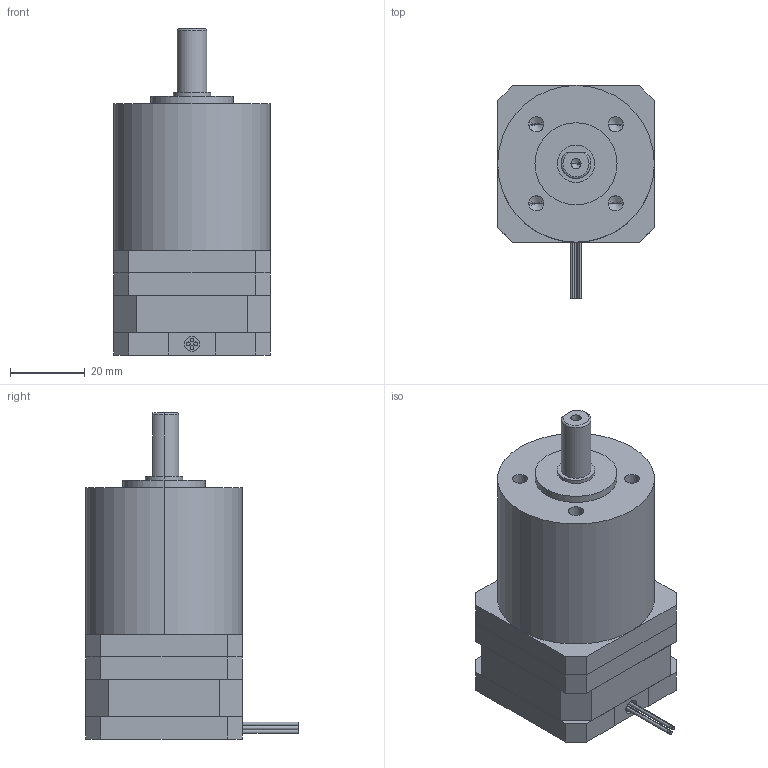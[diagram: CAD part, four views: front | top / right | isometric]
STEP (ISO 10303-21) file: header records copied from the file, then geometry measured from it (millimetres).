
FILE_DESCRIPTION (( 'STEP AP203' ), '1' );
FILE_NAME ('T42PG020-D05-0422.STEP', '2019-10-25T07:39:28', ( 'China' ), ( 'Home' ), 'SwSTEP 2.0', 'SolidWorks 2016', '' );
FILE_SCHEMA (( 'CONFIG_CONTROL_DESIGN' ));
Length unit declared in the file: millimetre
Products named in the file (1): T42PG020-D05-0422
Bounding box: 42 x 57 x 87.4 mm (x, y, z)
Volume: 103843.3 mm3; surface area: 24731.8 mm2
Topology: 4 solids, 4 shells, 107 faces, 247 edges, 151 vertices
Faces by surface type: plane 57, cylinder 29, cone 18, torus 3
Entity records: 3121 total; most frequent: CARTESIAN_POINT 623, DIRECTION 518, ORIENTED_EDGE 474, EDGE_CURVE 237, AXIS2_PLACEMENT_3D 178, VECTOR 162, LINE 162, VERTEX_POINT 151
